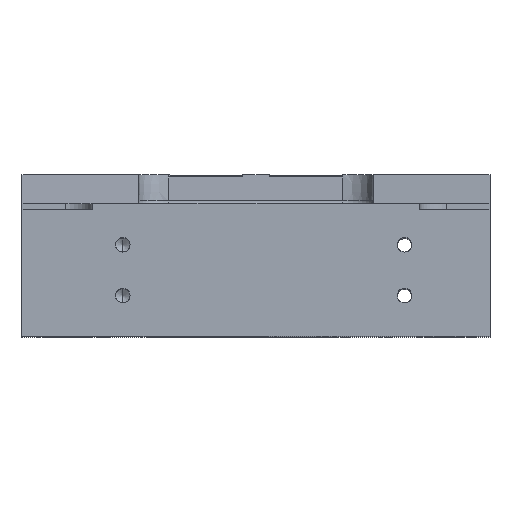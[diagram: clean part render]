
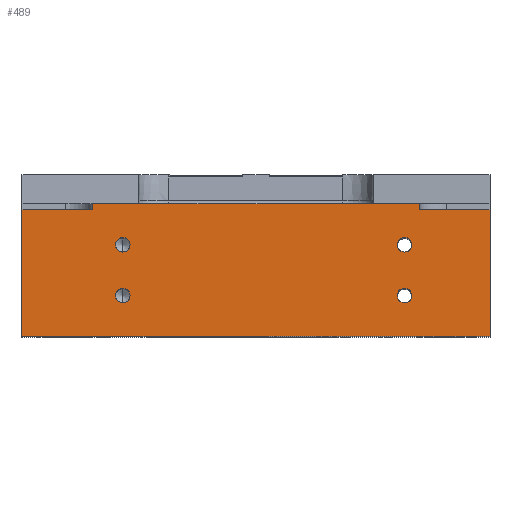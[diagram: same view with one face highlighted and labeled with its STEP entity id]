
A CAD part, top view. The second image highlights one B-rep face of the part: STEP entity #489.
In plain terms, the highlighted planar face has unit normal (0, 0, 1).
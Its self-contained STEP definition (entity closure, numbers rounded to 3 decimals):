
#489=ADVANCED_FACE('',(#3721,#3723,#3725,#3727,#3729),#3731,.T.);
#3721=FACE_BOUND('',#3722,.T.);
#3722=EDGE_LOOP('',(#7567,#7568,#7569,#7570,#7571,#7572,#7573,#7574,#7575,#7576,
#7577,#7578,#7579,#7580,#7581,#7582));
#3723=FACE_BOUND('',#3724,.T.);
#3724=EDGE_LOOP('',(#7583));
#3725=FACE_BOUND('',#3726,.T.);
#3726=EDGE_LOOP('',(#7584));
#3727=FACE_BOUND('',#3728,.T.);
#3728=EDGE_LOOP('',(#7585));
#3729=FACE_BOUND('',#3730,.T.);
#3730=EDGE_LOOP('',(#7586));
#3731=PLANE('',#3732);
#3732=AXIS2_PLACEMENT_3D('',#3733,#3734,#3735);
#3733=CARTESIAN_POINT('',(-230.,0.,340.));
#3734=DIRECTION('',(0.,0.,1.));
#3735=DIRECTION('',(1.,0.,0.));
#7567=ORIENTED_EDGE('',*,*,#8955,.T.);
#7568=ORIENTED_EDGE('',*,*,#8956,.T.);
#7569=ORIENTED_EDGE('',*,*,#8957,.T.);
#7570=ORIENTED_EDGE('',*,*,#8958,.T.);
#7571=ORIENTED_EDGE('',*,*,#8959,.T.);
#7572=ORIENTED_EDGE('',*,*,#8960,.T.);
#7573=ORIENTED_EDGE('',*,*,#8961,.F.);
#7574=ORIENTED_EDGE('',*,*,#8877,.T.);
#7575=ORIENTED_EDGE('',*,*,#8837,.T.);
#7576=ORIENTED_EDGE('',*,*,#8962,.T.);
#7577=ORIENTED_EDGE('',*,*,#8963,.T.);
#7578=ORIENTED_EDGE('',*,*,#8809,.T.);
#7579=ORIENTED_EDGE('',*,*,#8954,.T.);
#7580=ORIENTED_EDGE('',*,*,#8964,.T.);
#7581=ORIENTED_EDGE('',*,*,#8965,.T.);
#7582=ORIENTED_EDGE('',*,*,#8966,.T.);
#7583=ORIENTED_EDGE('',*,*,#8967,.T.);
#7584=ORIENTED_EDGE('',*,*,#8968,.T.);
#7585=ORIENTED_EDGE('',*,*,#8969,.T.);
#7586=ORIENTED_EDGE('',*,*,#8970,.T.);
#8809=EDGE_CURVE('',#9619,#9617,#9620,.F.);
#8837=EDGE_CURVE('',#9666,#9664,#9667,.T.);
#8877=EDGE_CURVE('',#9736,#9666,#9737,.T.);
#8954=EDGE_CURVE('',#9617,#9873,#9875,.F.);
#8955=EDGE_CURVE('',#9876,#9877,#9878,.F.);
#8956=EDGE_CURVE('',#9877,#9879,#9880,.T.);
#8957=EDGE_CURVE('',#9879,#9881,#9882,.F.);
#8958=EDGE_CURVE('',#9881,#9883,#9884,.F.);
#8959=EDGE_CURVE('',#9883,#9885,#9886,.F.);
#8960=EDGE_CURVE('',#9885,#9887,#9888,.T.);
#8961=EDGE_CURVE('',#9736,#9887,#9889,.T.);
#8962=EDGE_CURVE('',#9664,#9890,#9891,.T.);
#8963=EDGE_CURVE('',#9890,#9619,#9892,.F.);
#8964=EDGE_CURVE('',#9873,#9893,#9894,.T.);
#8965=EDGE_CURVE('',#9893,#9895,#9896,.F.);
#8966=EDGE_CURVE('',#9895,#9876,#9897,.F.);
#8967=EDGE_CURVE('',#9898,#9898,#9899,.F.);
#8968=EDGE_CURVE('',#9900,#9900,#9901,.T.);
#8969=EDGE_CURVE('',#9902,#9902,#9903,.T.);
#8970=EDGE_CURVE('',#9904,#9904,#9905,.F.);
#9617=VERTEX_POINT('',#11216);
#9619=VERTEX_POINT('',#11220);
#9620=LINE('',#11221,#11222);
#9664=VERTEX_POINT('',#11321);
#9666=VERTEX_POINT('',#11325);
#9667=LINE('',#11326,#11327);
#9736=VERTEX_POINT('',#11485);
#9737=LINE('',#11486,#11487);
#9873=VERTEX_POINT('',#11995);
#9875=LINE('',#11999,#12000);
#9876=VERTEX_POINT('',#12002);
#9877=VERTEX_POINT('',#12003);
#9878=LINE('',#12004,#12005);
#9879=VERTEX_POINT('',#12007);
#9880=LINE('',#12008,#12009);
#9881=VERTEX_POINT('',#12011);
#9882=LINE('',#12012,#12013);
#9883=VERTEX_POINT('',#12015);
#9884=LINE('',#12016,#12017);
#9885=VERTEX_POINT('',#12019);
#9886=LINE('',#12020,#12021);
#9887=VERTEX_POINT('',#12023);
#9888=LINE('',#12024,#12025);
#9889=LINE('',#12027,#12028);
#9890=VERTEX_POINT('',#12030);
#9891=LINE('',#12031,#12032);
#9892=LINE('',#12034,#12035);
#9893=VERTEX_POINT('',#12037);
#9894=LINE('',#12038,#12039);
#9895=VERTEX_POINT('',#12041);
#9896=LINE('',#12042,#12043);
#9897=LINE('',#12045,#12046);
#9898=VERTEX_POINT('',#12048);
#9899=CIRCLE('',#12049,7.19);
#9900=VERTEX_POINT('',#12053);
#9901=CIRCLE('',#12054,7.188);
#9902=VERTEX_POINT('',#12058);
#9903=CIRCLE('',#12059,7.188);
#9904=VERTEX_POINT('',#12063);
#9905=CIRCLE('',#12064,7.19);
#11216=CARTESIAN_POINT('',(26.,130.4,340.));
#11220=CARTESIAN_POINT('',(161.095,130.4,340.));
#11221=CARTESIAN_POINT('',(26.,130.4,340.));
#11222=VECTOR('',#11223,1.);
#11223=DIRECTION('',(1.,0.,0.));
#11321=CARTESIAN_POINT('',(230.,124.4,340.));
#11325=CARTESIAN_POINT('',(230.,0.,340.));
#11326=CARTESIAN_POINT('',(230.,0.,340.));
#11327=VECTOR('',#11328,1.);
#11328=DIRECTION('',(0.,1.,0.));
#11485=CARTESIAN_POINT('',(-230.,0.,340.));
#11486=CARTESIAN_POINT('',(-230.,0.,340.));
#11487=VECTOR('',#11488,1.);
#11488=DIRECTION('',(1.,0.,0.));
#11995=CARTESIAN_POINT('',(26.,130.3,340.));
#11999=CARTESIAN_POINT('',(26.,130.3,340.));
#12000=VECTOR('',#12001,1.);
#12001=DIRECTION('',(0.,1.,0.));
#12002=CARTESIAN_POINT('',(-55.,130.4,340.));
#12003=CARTESIAN_POINT('',(-55.,130.3,340.));
#12004=CARTESIAN_POINT('',(-55.,130.3,340.));
#12005=VECTOR('',#12006,1.);
#12006=DIRECTION('',(0.,1.,0.));
#12007=CARTESIAN_POINT('',(-110.,130.3,340.));
#12008=CARTESIAN_POINT('',(-55.,130.3,340.));
#12009=VECTOR('',#12010,1.);
#12010=DIRECTION('',(-1.,0.,0.));
#12011=CARTESIAN_POINT('',(-110.,130.4,340.));
#12012=CARTESIAN_POINT('',(-110.,130.4,340.));
#12013=VECTOR('',#12014,1.);
#12014=DIRECTION('',(0.,-1.,0.));
#12015=CARTESIAN_POINT('',(-161.095,130.4,340.));
#12016=CARTESIAN_POINT('',(-161.095,130.4,340.));
#12017=VECTOR('',#12018,1.);
#12018=DIRECTION('',(1.,0.,0.));
#12019=CARTESIAN_POINT('',(-161.095,124.4,340.));
#12020=CARTESIAN_POINT('',(-161.095,124.4,340.));
#12021=VECTOR('',#12022,1.);
#12022=DIRECTION('',(0.,1.,0.));
#12023=CARTESIAN_POINT('',(-230.,124.4,340.));
#12024=CARTESIAN_POINT('',(-161.095,124.4,340.));
#12025=VECTOR('',#12026,1.);
#12026=DIRECTION('',(-1.,0.,0.));
#12027=CARTESIAN_POINT('',(-230.,0.,340.));
#12028=VECTOR('',#12029,1.);
#12029=DIRECTION('',(0.,1.,0.));
#12030=CARTESIAN_POINT('',(161.095,124.4,340.));
#12031=CARTESIAN_POINT('',(230.,124.4,340.));
#12032=VECTOR('',#12033,1.);
#12033=DIRECTION('',(-1.,0.,0.));
#12034=CARTESIAN_POINT('',(161.095,130.4,340.));
#12035=VECTOR('',#12036,1.);
#12036=DIRECTION('',(0.,-1.,0.));
#12037=CARTESIAN_POINT('',(-29.,130.3,340.));
#12038=CARTESIAN_POINT('',(26.,130.3,340.));
#12039=VECTOR('',#12040,1.);
#12040=DIRECTION('',(-1.,0.,0.));
#12041=CARTESIAN_POINT('',(-29.,130.4,340.));
#12042=CARTESIAN_POINT('',(-29.,130.4,340.));
#12043=VECTOR('',#12044,1.);
#12044=DIRECTION('',(0.,-1.,0.));
#12045=CARTESIAN_POINT('',(-55.,130.4,340.));
#12046=VECTOR('',#12047,1.);
#12047=DIRECTION('',(1.,0.,0.));
#12048=CARTESIAN_POINT('',(-131.,97.19,340.));
#12049=AXIS2_PLACEMENT_3D('',#12050,#12051,#12052);
#12050=CARTESIAN_POINT('',(-131.,90.,340.));
#12051=DIRECTION('',(0.,0.,1.));
#12052=DIRECTION('',(0.,1.,0.));
#12053=CARTESIAN_POINT('',(138.812,90.,340.));
#12054=AXIS2_PLACEMENT_3D('',#12055,#12056,#12057);
#12055=CARTESIAN_POINT('',(146.,90.,340.));
#12056=DIRECTION('',(0.,0.,-1.));
#12057=DIRECTION('',(-1.,0.,0.));
#12058=CARTESIAN_POINT('',(138.812,40.,340.));
#12059=AXIS2_PLACEMENT_3D('',#12060,#12061,#12062);
#12060=CARTESIAN_POINT('',(146.,40.,340.));
#12061=DIRECTION('',(0.,0.,-1.));
#12062=DIRECTION('',(-1.,0.,0.));
#12063=CARTESIAN_POINT('',(-131.,47.19,340.));
#12064=AXIS2_PLACEMENT_3D('',#12065,#12066,#12067);
#12065=CARTESIAN_POINT('',(-131.,40.,340.));
#12066=DIRECTION('',(0.,0.,1.));
#12067=DIRECTION('',(0.,1.,0.));
